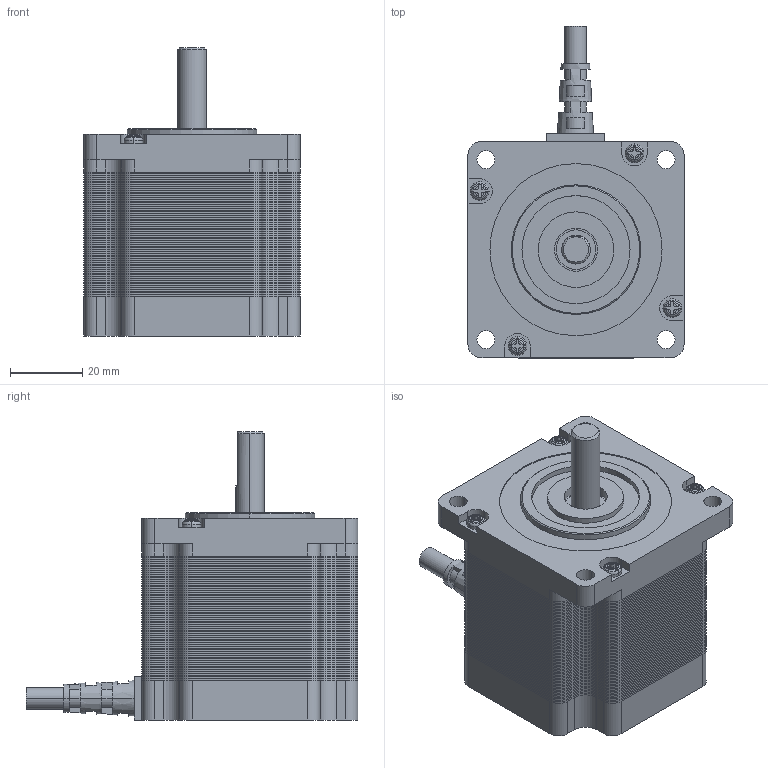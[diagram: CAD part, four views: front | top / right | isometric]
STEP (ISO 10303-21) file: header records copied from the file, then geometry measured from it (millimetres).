
FILE_DESCRIPTION (( 'STEP AP203' ), '1' );
FILE_NAME ('SM2402.STEP', '2020-05-23T05:47:39', ( 'Windows' ), ( 'Microsoft' ), 'SwSTEP 2.0', 'SolidWorks 2016', '' );
FILE_SCHEMA (( 'CONFIG_CONTROL_DESIGN' ));
Products named in the file (1): SM2402
Bounding box: 60 x 92.2 x 80 mm (x, y, z)
Volume: 181647.2 mm3; surface area: 464900.6 mm2
Topology: 72 solids, 72 shells, 2103 faces, 5783 edges, 3839 vertices
Faces by surface type: plane 1129, cylinder 935, torus 16, cone 15, sphere 8
Entity records: 67393 total; most frequent: CARTESIAN_POINT 12082, DIRECTION 11870, ORIENTED_EDGE 11550, EDGE_CURVE 5775, AXIS2_PLACEMENT_3D 4065, VERTEX_POINT 3839, LINE 3740, VECTOR 3740
